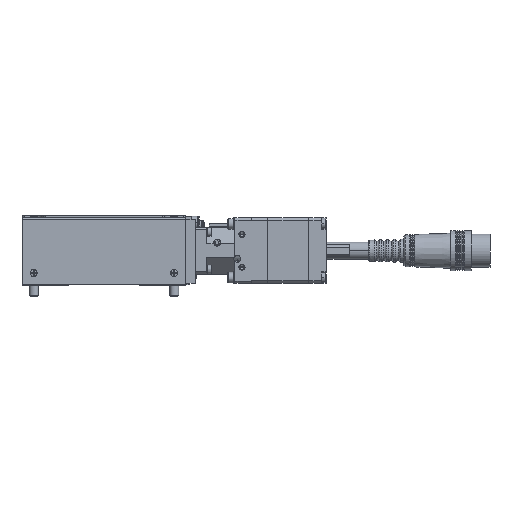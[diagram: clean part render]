
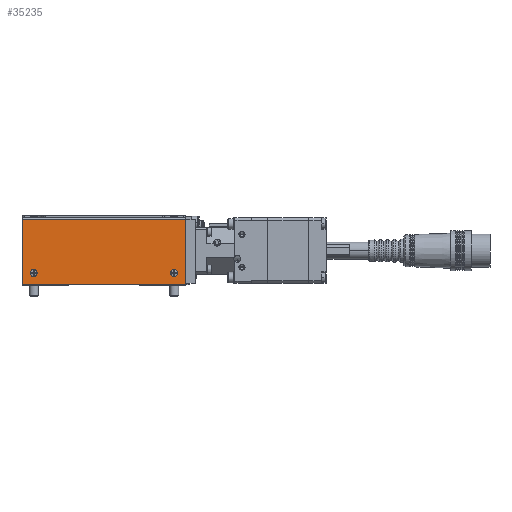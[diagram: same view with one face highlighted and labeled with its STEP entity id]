
A CAD part, front view. The second image highlights one B-rep face of the part: STEP entity #35235.
In plain terms, the highlighted planar face has unit normal (0, -1, 0).
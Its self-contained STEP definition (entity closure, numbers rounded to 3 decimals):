
#976 = VERTEX_POINT ( 'NONE', #59904 ) ;
#1676 = LINE ( 'NONE', #24988, #12989 ) ;
#3025 = VECTOR ( 'NONE', #61866, 1000. ) ;
#3281 = EDGE_LOOP ( 'NONE', ( #4301, #43325, #31481, #4479 ) ) ;
#3330 = CIRCLE ( 'NONE', #23791, 1.5 ) ;
#3433 = DIRECTION ( 'NONE',  ( -1., 0., 0. ) ) ;
#4029 = EDGE_CURVE ( 'NONE', #48747, #976, #6560, .T. ) ;
#4301 = ORIENTED_EDGE ( 'NONE', *, *, #8078, .F. ) ;
#4479 = ORIENTED_EDGE ( 'NONE', *, *, #28728, .F. ) ;
#4986 = CARTESIAN_POINT ( 'NONE',  ( 35., -72.5, 0.5 ) ) ;
#6272 = DIRECTION ( 'NONE',  ( -1., 0., 0. ) ) ;
#6560 = LINE ( 'NONE', #14858, #29080 ) ;
#7176 = PLANE ( 'NONE',  #54360 ) ;
#7839 = VERTEX_POINT ( 'NONE', #56730 ) ;
#8078 = EDGE_CURVE ( 'NONE', #48747, #26841, #13610, .T. ) ;
#9847 = DIRECTION ( 'NONE',  ( 0., -1., 0. ) ) ;
#10014 = CARTESIAN_POINT ( 'NONE',  ( 31.5, -72.5, 5.5 ) ) ;
#12638 = LINE ( 'NONE', #4986, #39677 ) ;
#12661 = FACE_BOUND ( 'NONE', #26227, .T. ) ;
#12989 = VECTOR ( 'NONE', #24156, 1000. ) ;
#13610 = LINE ( 'NONE', #56606, #3025 ) ;
#14315 = AXIS2_PLACEMENT_3D ( 'NONE', #27366, #61056, #3433 ) ;
#14485 = CARTESIAN_POINT ( 'NONE',  ( 30., -72.5, 5.5 ) ) ;
#14858 = CARTESIAN_POINT ( 'NONE',  ( -22.998, -72.5, 28.5 ) ) ;
#16007 = DIRECTION ( 'NONE',  ( 0., -1., 0. ) ) ;
#19244 = EDGE_CURVE ( 'NONE', #42880, #53633, #3330, .T. ) ;
#19291 = EDGE_CURVE ( 'NONE', #7839, #41501, #52954, .T. ) ;
#20980 = CARTESIAN_POINT ( 'NONE',  ( -30., -72.5, 5.5 ) ) ;
#20985 = EDGE_CURVE ( 'NONE', #41501, #7839, #34009, .T. ) ;
#21223 = CARTESIAN_POINT ( 'NONE',  ( -22.998, -72.5, 38.186 ) ) ;
#21289 = EDGE_CURVE ( 'NONE', #43917, #976, #1676, .T. ) ;
#23791 = AXIS2_PLACEMENT_3D ( 'NONE', #24978, #58685, #44339 ) ;
#24156 = DIRECTION ( 'NONE',  ( 0., 0., 1. ) ) ;
#24978 = CARTESIAN_POINT ( 'NONE',  ( 30., -72.5, 5.5 ) ) ;
#24988 = CARTESIAN_POINT ( 'NONE',  ( -35., -72.5, 0.5 ) ) ;
#26227 = EDGE_LOOP ( 'NONE', ( #28150, #45569 ) ) ;
#26476 = DIRECTION ( 'NONE',  ( 1., 0., 0. ) ) ;
#26841 = VERTEX_POINT ( 'NONE', #61409 ) ;
#27246 = AXIS2_PLACEMENT_3D ( 'NONE', #14485, #9847, #28752 ) ;
#27366 = CARTESIAN_POINT ( 'NONE',  ( -30., -72.5, 5.5 ) ) ;
#27629 = FACE_OUTER_BOUND ( 'NONE', #3281, .T. ) ;
#28150 = ORIENTED_EDGE ( 'NONE', *, *, #50649, .F. ) ;
#28470 = CARTESIAN_POINT ( 'NONE',  ( 28.5, -72.5, 5.5 ) ) ;
#28728 = EDGE_CURVE ( 'NONE', #26841, #43917, #12638, .T. ) ;
#28752 = DIRECTION ( 'NONE',  ( -1., 0., 0. ) ) ;
#29080 = VECTOR ( 'NONE', #43854, 1000. ) ;
#29151 = EDGE_LOOP ( 'NONE', ( #51568, #49304 ) ) ;
#31481 = ORIENTED_EDGE ( 'NONE', *, *, #21289, .F. ) ;
#34009 = CIRCLE ( 'NONE', #14315, 1.5 ) ;
#35118 = CARTESIAN_POINT ( 'NONE',  ( 35., -72.5, 28.5 ) ) ;
#35235 = ADVANCED_FACE ( 'NONE', ( #39708, #12661, #27629 ), #7176, .F. ) ;
#35558 = DIRECTION ( 'NONE',  ( 0., 1., 0. ) ) ;
#36999 = CARTESIAN_POINT ( 'NONE',  ( -35., -72.5, 0.5 ) ) ;
#39677 = VECTOR ( 'NONE', #6272, 1000. ) ;
#39708 = FACE_BOUND ( 'NONE', #29151, .T. ) ;
#41139 = AXIS2_PLACEMENT_3D ( 'NONE', #20980, #16007, #54651 ) ;
#41501 = VERTEX_POINT ( 'NONE', #49940 ) ;
#42145 = CIRCLE ( 'NONE', #27246, 1.5 ) ;
#42880 = VERTEX_POINT ( 'NONE', #10014 ) ;
#43325 = ORIENTED_EDGE ( 'NONE', *, *, #4029, .T. ) ;
#43854 = DIRECTION ( 'NONE',  ( -1., 0., 0. ) ) ;
#43917 = VERTEX_POINT ( 'NONE', #36999 ) ;
#44339 = DIRECTION ( 'NONE',  ( -1., 0., 0. ) ) ;
#45569 = ORIENTED_EDGE ( 'NONE', *, *, #19244, .F. ) ;
#48747 = VERTEX_POINT ( 'NONE', #35118 ) ;
#49304 = ORIENTED_EDGE ( 'NONE', *, *, #20985, .F. ) ;
#49940 = CARTESIAN_POINT ( 'NONE',  ( -28.5, -72.5, 5.5 ) ) ;
#50649 = EDGE_CURVE ( 'NONE', #53633, #42880, #42145, .T. ) ;
#51568 = ORIENTED_EDGE ( 'NONE', *, *, #19291, .F. ) ;
#52954 = CIRCLE ( 'NONE', #41139, 1.5 ) ;
#53633 = VERTEX_POINT ( 'NONE', #28470 ) ;
#54360 = AXIS2_PLACEMENT_3D ( 'NONE', #21223, #35558, #26476 ) ;
#54651 = DIRECTION ( 'NONE',  ( -1., 0., 0. ) ) ;
#56606 = CARTESIAN_POINT ( 'NONE',  ( 35., -72.5, 29. ) ) ;
#56730 = CARTESIAN_POINT ( 'NONE',  ( -31.5, -72.5, 5.5 ) ) ;
#58685 = DIRECTION ( 'NONE',  ( 0., -1., 0. ) ) ;
#59904 = CARTESIAN_POINT ( 'NONE',  ( -35., -72.5, 28.5 ) ) ;
#61056 = DIRECTION ( 'NONE',  ( 0., -1., 0. ) ) ;
#61409 = CARTESIAN_POINT ( 'NONE',  ( 35., -72.5, 0.5 ) ) ;
#61866 = DIRECTION ( 'NONE',  ( 0., 0., -1. ) ) ;
